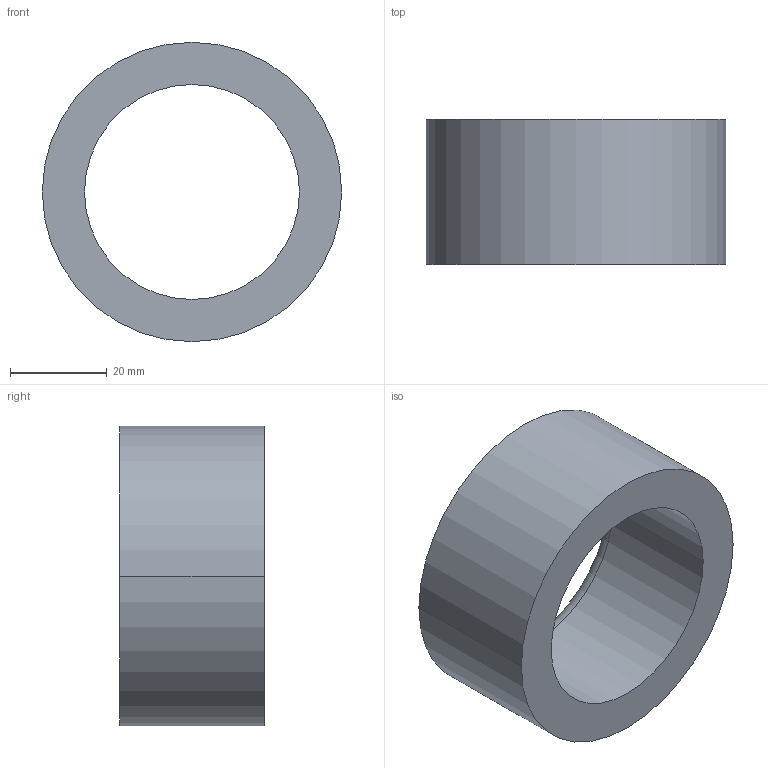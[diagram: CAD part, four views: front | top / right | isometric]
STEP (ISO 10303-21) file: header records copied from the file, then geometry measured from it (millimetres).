
FILE_DESCRIPTION (( 'STEP AP203' ), '1' );
FILE_NAME ('30800.WPP62L44.5.step', '2019-01-23T22:57:12', ( '' ), ( '' ), 'SwSTEP 2.0', 'SolidWorks 2017', '' );
FILE_SCHEMA (( 'CONFIG_CONTROL_DESIGN' ));
Length unit declared in the file: millimetre
Products named in the file (1): 30800.WPP62L44.5
Bounding box: 62 x 30 x 62 mm (x, y, z)
Volume: 43533.1 mm3; surface area: 12760.4 mm2
Topology: 1 solids, 1 shells, 8 faces, 16 edges, 10 vertices
Faces by surface type: cylinder 4, torus 2, plane 2
Entity records: 297 total; most frequent: DIRECTION 46, CARTESIAN_POINT 35, ORIENTED_EDGE 32, AXIS2_PLACEMENT_3D 21, EDGE_CURVE 16, CIRCLE 12, EDGE_LOOP 10, VERTEX_POINT 10
